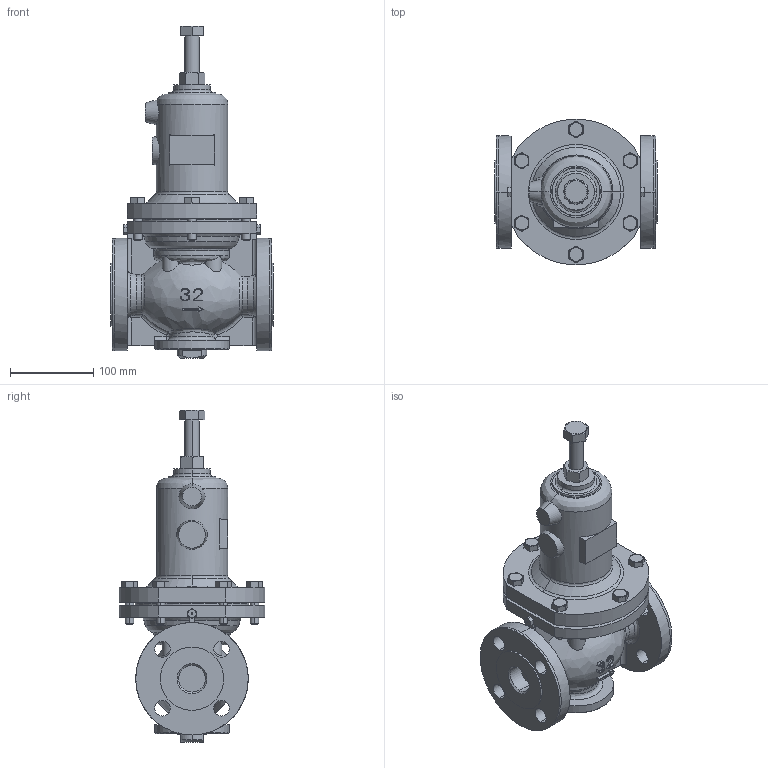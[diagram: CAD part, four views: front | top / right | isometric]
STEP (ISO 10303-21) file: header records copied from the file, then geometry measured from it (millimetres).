
FILE_DESCRIPTION( (''), '2;1');
FILE_NAME ('PC1276.13840.GD-200H 32A_11983.stp','2026-01-15T15:43:26',(''),(''),'spGate 20.6.3 (****-****-****-****)','','');
FILE_SCHEMA (('AUTOMOTIVE_DESIGN'));
Length unit declared in the file: millimetre
Products named in the file (4): Assembly; GD-200(32A)本体P; GD-200(3250)保護筒; CP_''_JIS B 1181 六角ナット 2種 上 ''_700
Assembly tree (3 placements, depth 2):
  Assembly
    GD-200(32A)本体P
    GD-200(3250)保護筒
    CP_''_JIS B 1181 六角ナット 2種 上 ''_700
Bounding box: 195 x 174.39 x 398.61 mm (x, y, z)
Volume: 3177593.6 mm3; surface area: 306567.2 mm2
Topology: 3 solids, 3 shells, 483 faces, 1230 edges, 787 vertices
Faces by surface type: bspline 181, plane 168, cylinder 130, sphere 4
Entity records: 30052 total; most frequent: CARTESIAN_POINT 10318, ORIENTED_EDGE 2452, COLOUR_RGB 1712, PRESENTATION_STYLE_ASSIGNMENT 1712, STYLED_ITEM 1712, DIRECTION 1666, EDGE_CURVE 1226, DRAUGHTING_PRE_DEFINED_CURVE_FONT 1226
